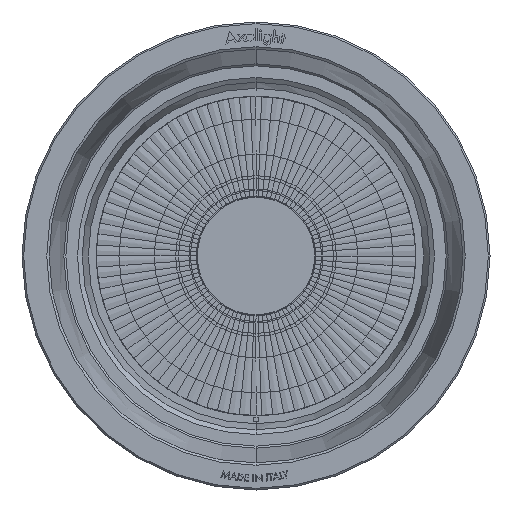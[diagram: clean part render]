
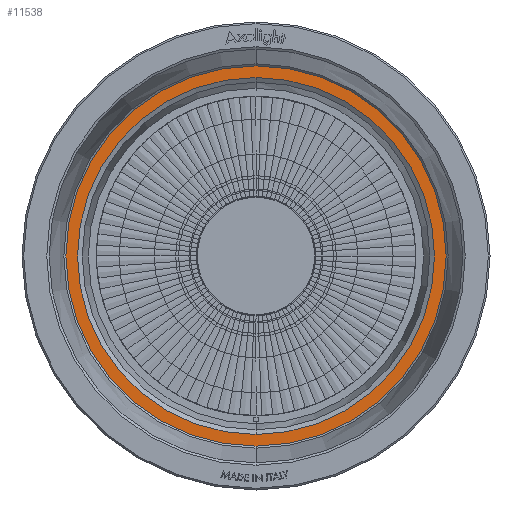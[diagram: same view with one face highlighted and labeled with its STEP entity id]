
A CAD part, front view. The second image highlights one B-rep face of the part: STEP entity #11538.
In plain terms, the highlighted planar face has unit normal (0, -1, 0) as drawn and (0, 1, 0) by its records, which use the part's own axes.
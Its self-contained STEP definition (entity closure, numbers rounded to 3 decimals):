
#707 = ORIENTED_EDGE ( 'NONE', *, *, #14665, .T. ) ;
#731 = CARTESIAN_POINT ( 'NONE',  ( 0., 44.2, 0. ) ) ;
#815 = CARTESIAN_POINT ( 'NONE',  ( 0., 44.2, -26. ) ) ;
#1551 = CARTESIAN_POINT ( 'NONE',  ( 0., 44.2, 28.358 ) ) ;
#1639 = AXIS2_PLACEMENT_3D ( 'NONE', #3390, #16753, #12622 ) ;
#1880 = VERTEX_POINT ( 'NONE', #2868 ) ;
#2541 = VERTEX_POINT ( 'NONE', #9542 ) ;
#2557 = DIRECTION ( 'NONE',  ( 0., 0., 1. ) ) ;
#2868 = CARTESIAN_POINT ( 'NONE',  ( 0., 44.2, -26.616 ) ) ;
#3390 = CARTESIAN_POINT ( 'NONE',  ( 0., 44.2, 0. ) ) ;
#3405 = PLANE ( 'NONE',  #24668 ) ;
#4303 = CIRCLE ( 'NONE', #4700, 28.358 ) ;
#4700 = AXIS2_PLACEMENT_3D ( 'NONE', #5988, #23226, #17735 ) ;
#5146 = ORIENTED_EDGE ( 'NONE', *, *, #13546, .T. ) ;
#5988 = CARTESIAN_POINT ( 'NONE',  ( 0., 44.2, 0. ) ) ;
#6497 = AXIS2_PLACEMENT_3D ( 'NONE', #12052, #19683, #2557 ) ;
#7381 = DIRECTION ( 'NONE',  ( 0., 0., 1. ) ) ;
#8314 = EDGE_CURVE ( 'NONE', #20231, #18862, #4303, .T. ) ;
#9289 = CIRCLE ( 'NONE', #6497, 26.616 ) ;
#9542 = CARTESIAN_POINT ( 'NONE',  ( 0., 44.2, 26.616 ) ) ;
#9727 = CIRCLE ( 'NONE', #22503, 26.616 ) ;
#10326 = FACE_BOUND ( 'NONE', #16277, .T. ) ;
#10616 = DIRECTION ( 'NONE',  ( 0., -1., 0. ) ) ;
#11538 = ADVANCED_FACE ( 'NONE', ( #10326, #13006 ), #3405, .T. ) ;
#11870 = CARTESIAN_POINT ( 'NONE',  ( 0., 44.2, -28.358 ) ) ;
#12052 = CARTESIAN_POINT ( 'NONE',  ( 0., 44.2, 0. ) ) ;
#12225 = DIRECTION ( 'NONE',  ( 0., 0., 1. ) ) ;
#12337 = ORIENTED_EDGE ( 'NONE', *, *, #18696, .T. ) ;
#12622 = DIRECTION ( 'NONE',  ( 0., 0., 1. ) ) ;
#13006 = FACE_OUTER_BOUND ( 'NONE', #18413, .T. ) ;
#13546 = EDGE_CURVE ( 'NONE', #1880, #2541, #9289, .T. ) ;
#14665 = EDGE_CURVE ( 'NONE', #2541, #1880, #9727, .T. ) ;
#15541 = CIRCLE ( 'NONE', #1639, 28.358 ) ;
#16277 = EDGE_LOOP ( 'NONE', ( #707, #5146 ) ) ;
#16753 = DIRECTION ( 'NONE',  ( 0., 1., 0. ) ) ;
#17735 = DIRECTION ( 'NONE',  ( 0., 0., 1. ) ) ;
#18384 = ORIENTED_EDGE ( 'NONE', *, *, #8314, .T. ) ;
#18413 = EDGE_LOOP ( 'NONE', ( #18384, #12337 ) ) ;
#18696 = EDGE_CURVE ( 'NONE', #18862, #20231, #15541, .T. ) ;
#18862 = VERTEX_POINT ( 'NONE', #11870 ) ;
#19683 = DIRECTION ( 'NONE',  ( 0., -1., 0. ) ) ;
#20231 = VERTEX_POINT ( 'NONE', #1551 ) ;
#22503 = AXIS2_PLACEMENT_3D ( 'NONE', #731, #10616, #12225 ) ;
#23226 = DIRECTION ( 'NONE',  ( 0., 1., 0. ) ) ;
#24144 = DIRECTION ( 'NONE',  ( 0., 1., 0. ) ) ;
#24668 = AXIS2_PLACEMENT_3D ( 'NONE', #815, #24144, #7381 ) ;
